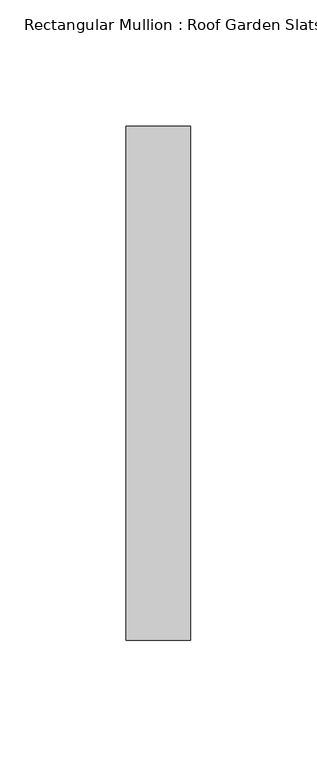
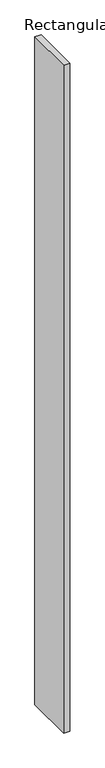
"""IFC4 building model written with IfcOpenShell, lengths in millimetres: member geometry, Rectangular Mullion : Roof Garden Slats."""

from ifc_helpers import new_model, si_unit, frame, origin, place, context, project, spatial, polyline, outline, extrude, source, transform, mapped, element, save


def rectangular_mullion_roof_garden_slats_73c82dfd(model_context):
    return source(origin(), model_context, "Body", "SweptSolid", [
        extrude(outline(polyline([(12.7, 139.7), (12.7, -63.5), (-12.7, -63.5), (-12.7, 139.7), (12.7, 139.7)])), frame((0.0, 0.0, -2894.767646), z_axis=(0.0, 0.0, 1.0), x_axis=(1.0, 0.0, 0.0)), (0.0, 0.0, 1.0), 2894.767646),
    ])


if __name__ == "__main__":
    model = new_model("IFC4")
    model_context = context("Model", 3, world=origin())
    ifc_project = project(units=[si_unit("LENGTHUNIT", "METRE", prefix="MILLI")], contexts=[model_context])
    site = spatial("IfcSite", under=ifc_project)
    building = spatial("IfcBuilding", under=site)
    placement = place(None, origin())
    rectangular_mullion_roof_garden_slats_shape = rectangular_mullion_roof_garden_slats_73c82dfd(model_context)
    element("IfcMember", 1, ObjectType="Rectangular Mullion : Roof Garden Slats", at=placement, inside=building, context=model_context, shape_type="MappedRepresentation", body=[
        mapped(rectangular_mullion_roof_garden_slats_shape, transform((0.0, 0.0, 0.0), x_axis=(1.0, 0.0, 0.0), y_axis=(0.0, 1.0, 0.0), z_axis=(0.0, 0.0, 1.0))),
    ])
    save(model, "model.ifc")
